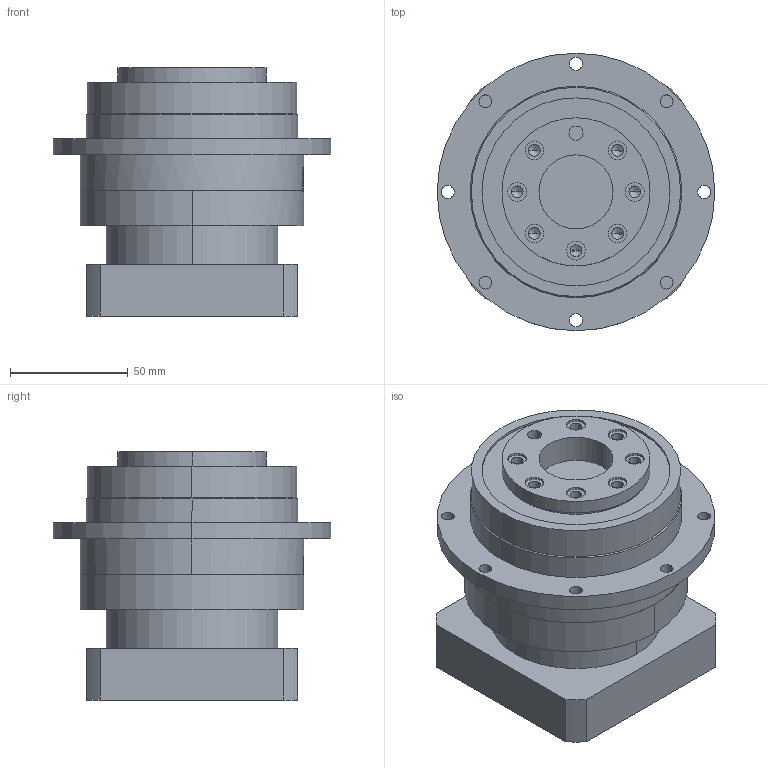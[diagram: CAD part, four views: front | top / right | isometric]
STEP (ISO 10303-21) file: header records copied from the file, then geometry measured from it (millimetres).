
FILE_DESCRIPTION (( 'STEP AP203' ), '1' );
FILE_NAME ('PLX90-L1-14-73-98.4.STEP', '2022-07-05T08:16:19', ( 'Windows User' ), ( 'P R C' ), 'SwSTEP 2.0', 'SolidWorks 2016', '' );
FILE_SCHEMA (( 'CONFIG_CONTROL_DESIGN' ));
Length unit declared in the file: millimetre
Products named in the file (6): PG90 珨撰狟屳啣-14; 囀鞠褒蹟佪-M6x16; PG90 窣諉啣-73-M5-98.4-LR43; 粣創-6006 30x55x13; PLX90-L1-14-73-98.4; PG90 内齿圈_一级内齿圈
Assembly tree (5 placements, depth 2):
  PLX90-L1-14-73-98.4
    PG90 内齿圈_一级内齿圈
    PG90 珨撰狟屳啣-14
    囀鞠褒蹟佪-M6x16
    PG90 窣諉啣-73-M5-98.4-LR43
    粣創-6006 30x55x13
Bounding box: 118 x 118 x 105.5 mm (x, y, z)
Volume: 616820.1 mm3; surface area: 123045.8 mm2
Topology: 5 solids, 6 shells, 1180 faces, 3123 edges, 2044 vertices
Faces by surface type: plane 598, bspline 283, cylinder 257, cone 42
Entity records: 47453 total; most frequent: CARTESIAN_POINT 19248, ORIENTED_EDGE 6170, DIRECTION 4969, EDGE_CURVE 3085, VERTEX_POINT 2044, AXIS2_PLACEMENT_3D 1697, VECTOR 1575, LINE 1575
